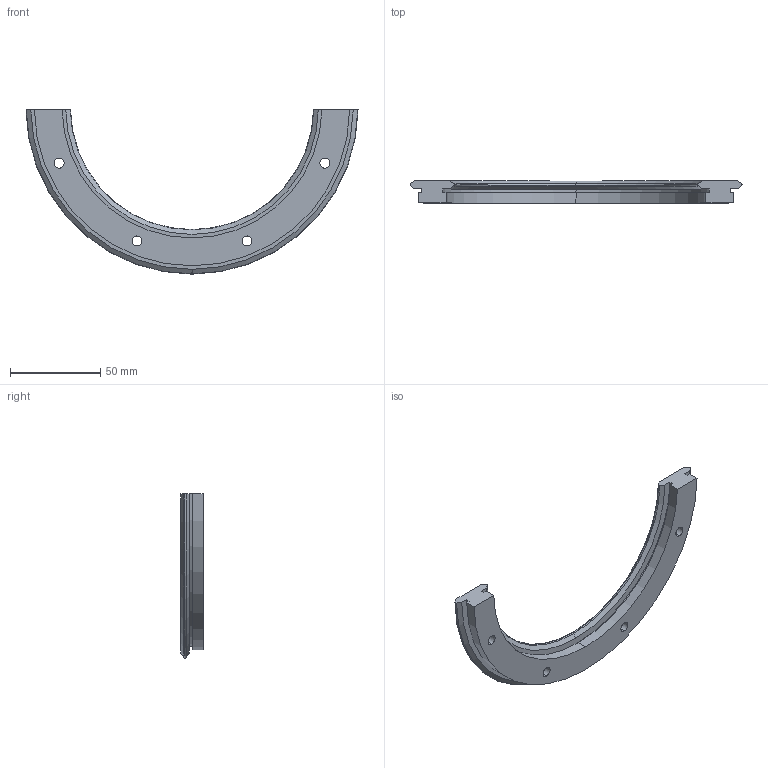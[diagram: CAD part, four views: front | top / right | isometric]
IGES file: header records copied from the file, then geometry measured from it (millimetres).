
Start section: 3D InterOp IGES (v. 2020 1.0.1), Spatial Corp. Copyright (c) 1999-2017.
Global section: file name: r25_159_r180.igs; native system: Spatial Corp.; preprocessor: 3D InterOp ACIS/IGES; author: TraceParts; organization: TraceParts S.A.; date: 20220624.025244; units: millimetre
Bounding box: 183.6 x 12.25 x 90.81 mm (x, y, z)
Surface area: 20272.1 mm2 (no closed solid volume)
Topology: 0 solids, 0 shells, 52 faces, 264 edges, 264 vertices
Faces by surface type: revolution 40, extrusion 12
